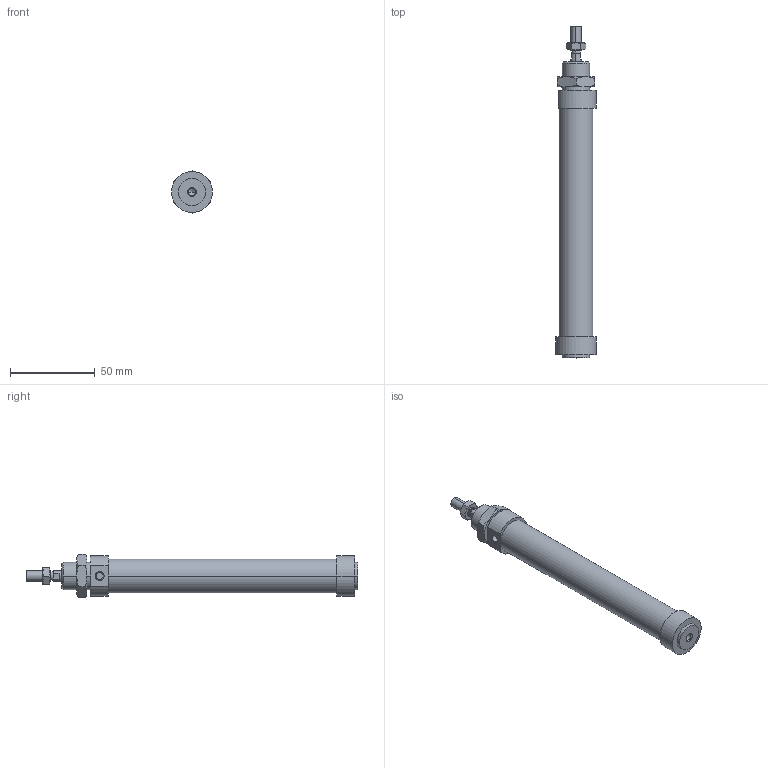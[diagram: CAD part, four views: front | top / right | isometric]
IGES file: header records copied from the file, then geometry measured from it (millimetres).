
Global section: file name: No Iges File Name specified; native system: AutoDesk Inventor R6.0; preprocessor: AutoDesk Inventor Iges Exporter R6.0; author: No Author specified; organization: No Organization specified; date: 20030402.184204; units: millimetre
Bounding box: 24 x 196 x 25.4 mm (x, y, z)
Volume: 57711.2 mm3; surface area: 19014.9 mm2
Topology: 4 solids, 4 shells, 108 faces, 229 edges, 135 vertices
Faces by surface type: cone 34, plane 33, bspline 21, cylinder 16, revolution 4
